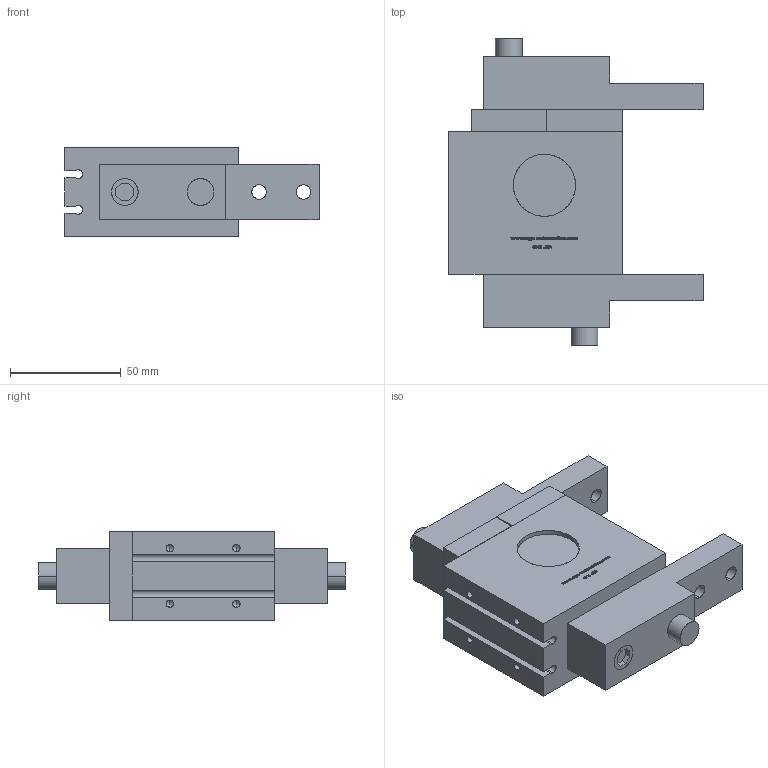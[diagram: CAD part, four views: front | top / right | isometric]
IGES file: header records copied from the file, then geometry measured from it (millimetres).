
Start section: SolidWorks IGES file using analytic representation for surfaces
Global section: file name: H:\GDL.32\GDL.32close.IGS; native system: SolidWorks 2010; preprocessor: SolidWorks 2010; author: SGA; date: 111107.105740; units: millimetre
Bounding box: 114.44 x 138 x 40 mm (x, y, z)
Surface area: 70034.8 mm2 (no closed solid volume)
Topology: 0 solids, 0 shells, 570 faces, 6963 edges, 6951 vertices
Faces by surface type: bspline 492, revolution 78
